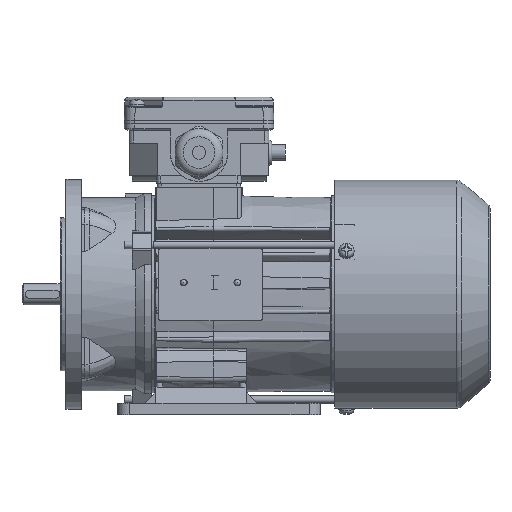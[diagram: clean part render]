
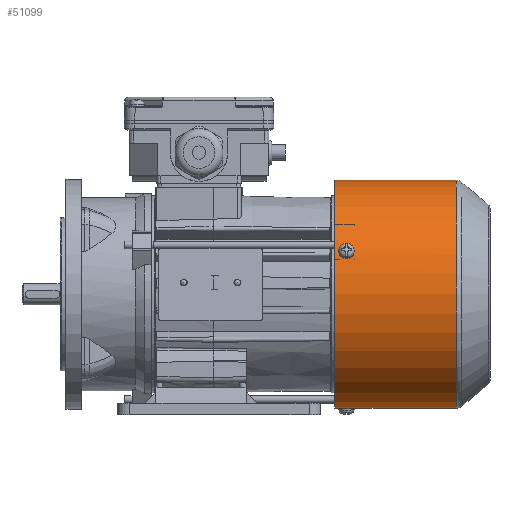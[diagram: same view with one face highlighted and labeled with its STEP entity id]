
A CAD part, front view. The second image highlights one B-rep face of the part: STEP entity #51099.
In plain terms, the highlighted cylindrical face has radius 59.6 mm (diameter 119.2 mm), a full revolution.
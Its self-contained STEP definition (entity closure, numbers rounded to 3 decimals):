
#1023=B_SPLINE_CURVE_WITH_KNOTS('',3,(#76673,#76674,#76675,#76676,#76677,
#76678,#76679),.UNSPECIFIED.,.F.,.F.,(4,1,1,1,4),(0.,
0.002,0.004,0.006,0.007),
 .UNSPECIFIED.);
#1024=B_SPLINE_CURVE_WITH_KNOTS('',3,(#76681,#76682,#76683,#76684,#76685,
#76686,#76687),.UNSPECIFIED.,.F.,.F.,(4,1,1,1,4),(0.,
0.002,0.004,0.006,0.007),
 .UNSPECIFIED.);
#1025=B_SPLINE_CURVE_WITH_KNOTS('',3,(#76693,#76694,#76695,#76696,#76697,
#76698,#76699),.UNSPECIFIED.,.F.,.F.,(4,1,1,1,4),(0.,0.002,
0.004,0.006,0.008),
 .UNSPECIFIED.);
#1026=B_SPLINE_CURVE_WITH_KNOTS('',3,(#76707,#76708,#76709,#76710,#76711,
#76712,#76713),.UNSPECIFIED.,.F.,.F.,(4,1,1,1,4),(0.,
0.002,0.004,0.006,0.008),
 .UNSPECIFIED.);
#1027=B_SPLINE_CURVE_WITH_KNOTS('',3,(#76724,#76725,#76726,#76727,#76728,
#76729,#76730),.UNSPECIFIED.,.F.,.F.,(4,1,1,1,4),(0.,0.002,
0.004,0.006,0.008),
 .UNSPECIFIED.);
#1028=B_SPLINE_CURVE_WITH_KNOTS('',3,(#76738,#76739,#76740,#76741,#76742,
#76743,#76744),.UNSPECIFIED.,.F.,.F.,(4,1,1,1,4),(0.,0.002,
0.004,0.006,0.008),
 .UNSPECIFIED.);
#15796=ORIENTED_EDGE('',*,*,#22898,.T.);
#15797=ORIENTED_EDGE('',*,*,#22896,.T.);
#15798=ORIENTED_EDGE('',*,*,#22901,.T.);
#15799=ORIENTED_EDGE('',*,*,#22900,.T.);
#15800=ORIENTED_EDGE('',*,*,#22892,.F.);
#15801=ORIENTED_EDGE('',*,*,#22893,.F.);
#15802=ORIENTED_EDGE('',*,*,#22907,.T.);
#15803=ORIENTED_EDGE('',*,*,#22905,.T.);
#15804=ORIENTED_EDGE('',*,*,#22910,.T.);
#15805=ORIENTED_EDGE('',*,*,#22909,.T.);
#15806=ORIENTED_EDGE('',*,*,#23046,.F.);
#15807=ORIENTED_EDGE('',*,*,#22902,.T.);
#22892=EDGE_CURVE('',#27094,#27093,#1023,.T.);
#22893=EDGE_CURVE('',#27093,#27094,#1024,.T.);
#22896=EDGE_CURVE('',#27137,#27138,#1025,.T.);
#22898=EDGE_CURVE('',#27139,#27137,#29317,.F.);
#22900=EDGE_CURVE('',#27140,#27139,#1026,.T.);
#22901=EDGE_CURVE('',#27138,#27140,#29318,.F.);
#22902=EDGE_CURVE('',#27141,#27141,#29319,.F.);
#22905=EDGE_CURVE('',#27142,#27143,#1027,.T.);
#22907=EDGE_CURVE('',#27144,#27142,#29320,.F.);
#22909=EDGE_CURVE('',#27145,#27144,#1028,.T.);
#22910=EDGE_CURVE('',#27143,#27145,#29321,.F.);
#23046=EDGE_CURVE('',#27256,#27256,#29370,.T.);
#27093=VERTEX_POINT('',#76519);
#27094=VERTEX_POINT('',#76520);
#27137=VERTEX_POINT('',#76690);
#27138=VERTEX_POINT('',#76692);
#27139=VERTEX_POINT('',#76702);
#27140=VERTEX_POINT('',#76706);
#27141=VERTEX_POINT('',#76718);
#27142=VERTEX_POINT('',#76721);
#27143=VERTEX_POINT('',#76723);
#27144=VERTEX_POINT('',#76733);
#27145=VERTEX_POINT('',#76737);
#27256=VERTEX_POINT('',#77128);
#29317=CIRCLE('',#54106,59.6);
#29318=CIRCLE('',#54109,59.6);
#29319=CIRCLE('',#54111,59.6);
#29320=CIRCLE('',#54114,59.6);
#29321=CIRCLE('',#54117,59.6);
#29370=CIRCLE('',#54225,59.6);
#31548=EDGE_LOOP('',(#15796,#15797,#15798,#15799));
#31549=EDGE_LOOP('',(#15800,#15801));
#31550=EDGE_LOOP('',(#15802,#15803,#15804,#15805));
#31551=EDGE_LOOP('',(#15806));
#31552=EDGE_LOOP('',(#15807));
#34013=FACE_BOUND('',#31548,.T.);
#34014=FACE_BOUND('',#31549,.T.);
#34015=FACE_BOUND('',#31550,.T.);
#34016=FACE_BOUND('',#31551,.T.);
#34017=FACE_BOUND('',#31552,.T.);
#35271=CYLINDRICAL_SURFACE('',#54224,59.6);
#51099=ADVANCED_FACE('',(#34013,#34014,#34015,#34016,#34017),#35271,.T.);
#54106=AXIS2_PLACEMENT_3D('',#76703,#62387,#62388);
#54109=AXIS2_PLACEMENT_3D('',#76715,#62394,#62395);
#54111=AXIS2_PLACEMENT_3D('',#76717,#62398,#62399);
#54114=AXIS2_PLACEMENT_3D('',#76734,#62407,#62408);
#54117=AXIS2_PLACEMENT_3D('',#76746,#62414,#62415);
#54224=AXIS2_PLACEMENT_3D('',#77126,#62691,#62692);
#54225=AXIS2_PLACEMENT_3D('',#77127,#62693,#62694);
#62387=DIRECTION('',(-1.,0.,0.));
#62388=DIRECTION('',(0.,0.866,-0.5));
#62394=DIRECTION('',(1.,0.,0.));
#62395=DIRECTION('',(0.,-0.866,0.5));
#62398=DIRECTION('',(1.,0.,0.));
#62399=DIRECTION('',(0.,0.,-1.));
#62407=DIRECTION('',(-1.,0.,0.));
#62408=DIRECTION('',(0.,0.,1.));
#62414=DIRECTION('',(1.,0.,0.));
#62415=DIRECTION('',(0.,0.,-1.));
#62691=DIRECTION('',(-1.,0.,0.));
#62692=DIRECTION('',(0.,0.,1.));
#62693=DIRECTION('',(-1.,0.,0.));
#62694=DIRECTION('',(0.,0.,1.));
#76519=CARTESIAN_POINT('',(67.,8.295,-59.02));
#76520=CARTESIAN_POINT('',(72.,8.295,-59.02));
#76673=CARTESIAN_POINT('',(72.,8.295,-59.02));
#76674=CARTESIAN_POINT('',(71.937,7.681,-59.106));
#76675=CARTESIAN_POINT('',(71.356,6.499,-59.249));
#76676=CARTESIAN_POINT('',(69.502,5.777,-59.318));
#76677=CARTESIAN_POINT('',(67.649,6.493,-59.25));
#76678=CARTESIAN_POINT('',(67.063,7.681,-59.106));
#76679=CARTESIAN_POINT('',(67.,8.295,-59.02));
#76681=CARTESIAN_POINT('',(67.,8.295,-59.02));
#76682=CARTESIAN_POINT('',(67.063,8.908,-58.934));
#76683=CARTESIAN_POINT('',(67.644,10.084,-58.746));
#76684=CARTESIAN_POINT('',(69.498,10.797,-58.613));
#76685=CARTESIAN_POINT('',(71.351,10.09,-58.745));
#76686=CARTESIAN_POINT('',(71.937,8.908,-58.934));
#76687=CARTESIAN_POINT('',(72.,8.295,-59.02));
#76690=CARTESIAN_POINT('',(72.,46.437,37.36));
#76692=CARTESIAN_POINT('',(67.,46.437,37.36));
#76693=CARTESIAN_POINT('',(72.,46.437,37.36));
#76694=CARTESIAN_POINT('',(72.,46.023,37.874));
#76695=CARTESIAN_POINT('',(71.458,45.191,38.867));
#76696=CARTESIAN_POINT('',(69.502,44.648,39.479));
#76697=CARTESIAN_POINT('',(67.542,45.19,38.869));
#76698=CARTESIAN_POINT('',(67.,46.023,37.874));
#76699=CARTESIAN_POINT('',(67.,46.437,37.36));
#76702=CARTESIAN_POINT('',(72.,47.484,36.02));
#76703=CARTESIAN_POINT('',(72.,0.,0.));
#76706=CARTESIAN_POINT('',(67.,47.484,36.02));
#76707=CARTESIAN_POINT('',(67.,47.484,36.02));
#76708=CARTESIAN_POINT('',(67.,47.883,35.493));
#76709=CARTESIAN_POINT('',(67.542,48.645,34.446));
#76710=CARTESIAN_POINT('',(69.498,49.108,33.771));
#76711=CARTESIAN_POINT('',(71.458,48.646,34.444));
#76712=CARTESIAN_POINT('',(72.,47.883,35.493));
#76713=CARTESIAN_POINT('',(72.,47.484,36.02));
#76715=CARTESIAN_POINT('',(67.,0.,0.));
#76717=CARTESIAN_POINT('',(126.809,0.,0.));
#76718=CARTESIAN_POINT('',(126.809,0.,-59.6));
#76721=CARTESIAN_POINT('',(72.,-55.573,21.536));
#76723=CARTESIAN_POINT('',(67.,-55.573,21.536));
#76724=CARTESIAN_POINT('',(72.,-55.573,21.536));
#76725=CARTESIAN_POINT('',(72.,-55.812,20.92));
#76726=CARTESIAN_POINT('',(71.458,-56.255,19.703));
#76727=CARTESIAN_POINT('',(69.502,-56.514,18.927));
#76728=CARTESIAN_POINT('',(67.542,-56.256,19.701));
#76729=CARTESIAN_POINT('',(67.,-55.812,20.92));
#76730=CARTESIAN_POINT('',(67.,-55.573,21.536));
#76733=CARTESIAN_POINT('',(72.,-54.936,23.112));
#76734=CARTESIAN_POINT('',(72.,0.,0.));
#76737=CARTESIAN_POINT('',(67.,-54.936,23.112));
#76738=CARTESIAN_POINT('',(67.,-54.936,23.112));
#76739=CARTESIAN_POINT('',(67.,-54.68,23.721));
#76740=CARTESIAN_POINT('',(67.542,-54.154,24.905));
#76741=CARTESIAN_POINT('',(69.498,-53.8,25.643));
#76742=CARTESIAN_POINT('',(71.458,-54.153,24.907));
#76743=CARTESIAN_POINT('',(72.,-54.68,23.721));
#76744=CARTESIAN_POINT('',(72.,-54.936,23.112));
#76746=CARTESIAN_POINT('',(67.,0.,0.));
#77126=CARTESIAN_POINT('',(3.5,0.,0.));
#77127=CARTESIAN_POINT('',(63.5,0.,0.));
#77128=CARTESIAN_POINT('',(63.5,0.,59.6));
